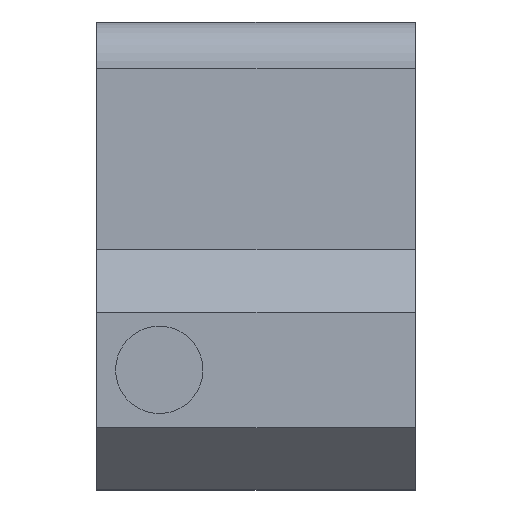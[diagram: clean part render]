
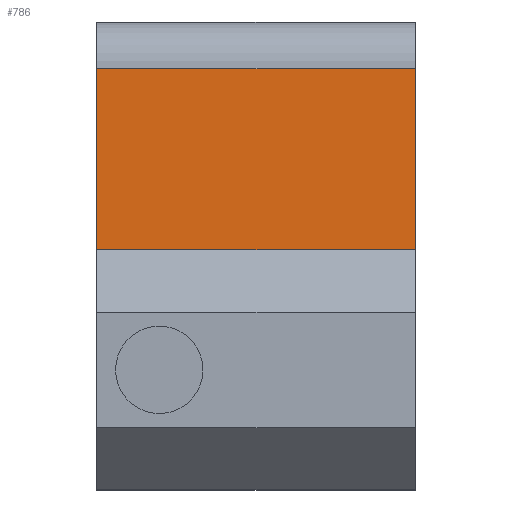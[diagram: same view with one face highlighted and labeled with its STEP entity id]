
A CAD part, left-side view. The second image highlights one B-rep face of the part: STEP entity #786.
In plain terms, the highlighted planar face has unit normal (-1, 0, 0).
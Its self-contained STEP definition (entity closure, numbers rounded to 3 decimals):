
#82 = DIRECTION ( 'NONE',  ( 0., 0., -1. ) ) ;
#100 = EDGE_CURVE ( 'NONE', #1120, #346, #1338, .T. ) ;
#110 = DIRECTION ( 'NONE',  ( 0., 0., 1. ) ) ;
#120 = DIRECTION ( 'NONE',  ( 0., 0., 1. ) ) ;
#159 = FACE_OUTER_BOUND ( 'NONE', #1345, .T. ) ;
#171 = CARTESIAN_POINT ( 'NONE',  ( 0., 20.4, 12. ) ) ;
#193 = ORIENTED_EDGE ( 'NONE', *, *, #698, .T. ) ;
#219 = CARTESIAN_POINT ( 'NONE',  ( 0., -15.911, 0.4 ) ) ;
#282 = LINE ( 'NONE', #219, #573 ) ;
#308 = CARTESIAN_POINT ( 'NONE',  ( 0., 0., 12. ) ) ;
#342 = CARTESIAN_POINT ( 'NONE',  ( 0., 20.4, -15. ) ) ;
#346 = VERTEX_POINT ( 'NONE', #171 ) ;
#454 = EDGE_CURVE ( 'NONE', #1147, #1120, #282, .T. ) ;
#515 = VECTOR ( 'NONE', #110, 1000. ) ;
#560 = LINE ( 'NONE', #858, #515 ) ;
#573 = VECTOR ( 'NONE', #860, 1000. ) ;
#599 = DIRECTION ( 'NONE',  ( 0., 1., 0. ) ) ;
#606 = CARTESIAN_POINT ( 'NONE',  ( 0., 0., 0.4 ) ) ;
#652 = VECTOR ( 'NONE', #599, 1000. ) ;
#698 = EDGE_CURVE ( 'NONE', #1147, #876, #560, .T. ) ;
#719 = DIRECTION ( 'NONE',  ( 1., 0., 0. ) ) ;
#786 = ADVANCED_FACE ( 'NONE', ( #159 ), #1215, .F. ) ;
#798 = CARTESIAN_POINT ( 'NONE',  ( 0., 20.4, 0.4 ) ) ;
#858 = CARTESIAN_POINT ( 'NONE',  ( 0., 0., -15. ) ) ;
#860 = DIRECTION ( 'NONE',  ( 0., 1., 0. ) ) ;
#876 = VERTEX_POINT ( 'NONE', #308 ) ;
#944 = LINE ( 'NONE', #1195, #652 ) ;
#1009 = AXIS2_PLACEMENT_3D ( 'NONE', #1320, #719, #82 ) ;
#1064 = VECTOR ( 'NONE', #120, 1000. ) ;
#1097 = EDGE_CURVE ( 'NONE', #876, #346, #944, .T. ) ;
#1104 = ORIENTED_EDGE ( 'NONE', *, *, #454, .F. ) ;
#1120 = VERTEX_POINT ( 'NONE', #798 ) ;
#1147 = VERTEX_POINT ( 'NONE', #606 ) ;
#1168 = ORIENTED_EDGE ( 'NONE', *, *, #100, .F. ) ;
#1195 = CARTESIAN_POINT ( 'NONE',  ( 0., 20.4, 12. ) ) ;
#1210 = ORIENTED_EDGE ( 'NONE', *, *, #1097, .T. ) ;
#1215 = PLANE ( 'NONE',  #1009 ) ;
#1320 = CARTESIAN_POINT ( 'NONE',  ( 0., 20.4, -15. ) ) ;
#1338 = LINE ( 'NONE', #342, #1064 ) ;
#1345 = EDGE_LOOP ( 'NONE', ( #193, #1210, #1168, #1104 ) ) ;
